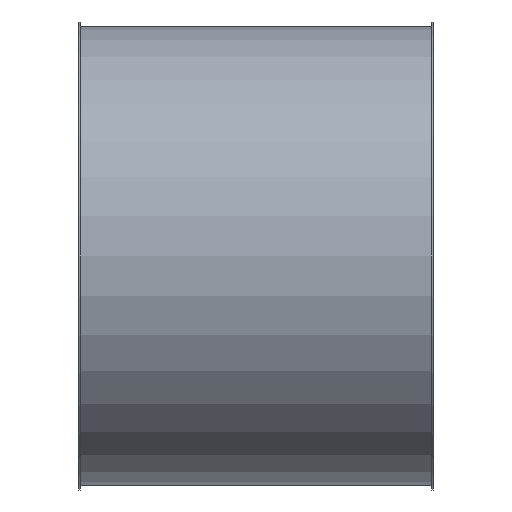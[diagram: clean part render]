
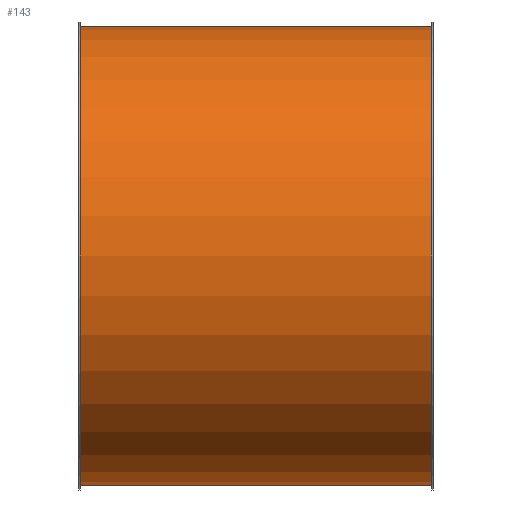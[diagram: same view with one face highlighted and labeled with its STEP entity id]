
A CAD part, front view. The second image highlights one B-rep face of the part: STEP entity #143.
In plain terms, the highlighted cylindrical face has radius 316 mm (diameter 632 mm), a full revolution.
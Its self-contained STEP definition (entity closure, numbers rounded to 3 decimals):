
#112=CARTESIAN_POINT('',(454.119,2.817,0.0));
#113=VERTEX_POINT('',#112);
#114=CARTESIAN_POINT('',(454.119,318.817,0.0));
#115=DIRECTION('',(-1.0,0.0,0.0));
#116=DIRECTION('',(0.0,-1.0,0.0));
#117=AXIS2_PLACEMENT_3D('',#114,#115,#116);
#118=CIRCLE('',#117,316.);
#119=EDGE_CURVE('',#113,#113,#118,.T.);
#124=CARTESIAN_POINT('',(212.119,318.817,0.0));
#125=DIRECTION('',(-1.0,0.,0.0));
#126=DIRECTION('',(0.0,-1.0,0.0));
#127=AXIS2_PLACEMENT_3D('',#124,#125,#126);
#128=CYLINDRICAL_SURFACE('',#127,316.);
#129=CARTESIAN_POINT('',(-29.881,2.817,0.0));
#130=VERTEX_POINT('',#129);
#131=CARTESIAN_POINT('',(-29.881,318.817,0.0));
#132=DIRECTION('',(-1.0,0.0,0.0));
#133=DIRECTION('',(0.0,-1.0,0.0));
#134=AXIS2_PLACEMENT_3D('',#131,#132,#133);
#135=CIRCLE('',#134,316.0);
#136=EDGE_CURVE('',#130,#130,#135,.T.);
#137=ORIENTED_EDGE('',*,*,#136,.F.);
#138=EDGE_LOOP('',(#137));
#139=FACE_OUTER_BOUND('',#138,.T.);
#140=ORIENTED_EDGE('',*,*,#119,.T.);
#141=EDGE_LOOP('',(#140));
#142=FACE_BOUND('',#141,.T.);
#143=ADVANCED_FACE('',(#139,#142),#128,.T.);
